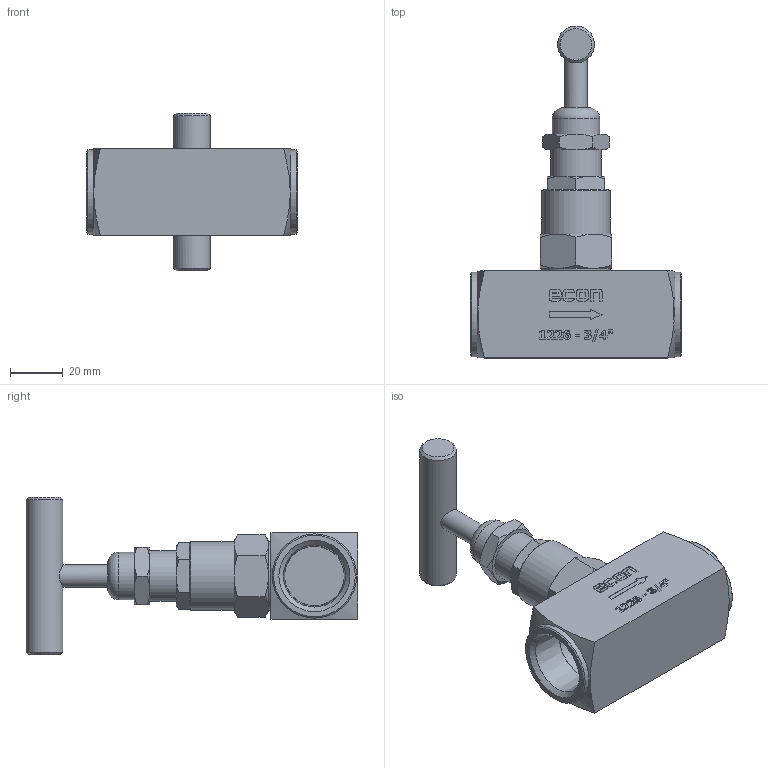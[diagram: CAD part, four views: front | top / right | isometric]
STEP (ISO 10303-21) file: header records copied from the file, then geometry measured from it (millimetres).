
FILE_DESCRIPTION(/* description */ ('Eriks item no: 12035756'),/* implementation_level */ '2;1');
FILE_NAME(/* name */ '1226-020-PN400.stp',/* time_stamp */ '2024-02-15T12:26:36+01:00',/* author */ ('roger.thijssen'),/* organization */ (''),/* preprocessor_version */ 'ST-DEVELOPER v19.2',/* originating_system */ 'Autodesk Inventor 2024',/* authorisation */ '');
FILE_SCHEMA (('AUTOMOTIVE_DESIGN { 1 0 10303 214 3 1 1 }'));
Length unit declared in the file: millimetre
Products named in the file (1): Needle valve, 1226-020-PN400
Bounding box: 80 x 126 x 60 mm (x, y, z)
Volume: 104382.3 mm3; surface area: 23446 mm2
Topology: 1 solids, 1 shells, 290 faces, 735 edges, 478 vertices
Faces by surface type: plane 166, bspline 59, cone 41, cylinder 23, torus 1
Full cylindrical faces by diameter (mm): 8.5 x1, 14 x1, 18 x1, 19 x1, 22.631 x2, 26 x2, 32 x2
Entity records: 9370 total; most frequent: CARTESIAN_POINT 2589, ORIENTED_EDGE 1470, DIRECTION 1094, EDGE_CURVE 735, VERTEX_POINT 478, LINE 436, VECTOR 436, AXIS2_PLACEMENT_3D 329
